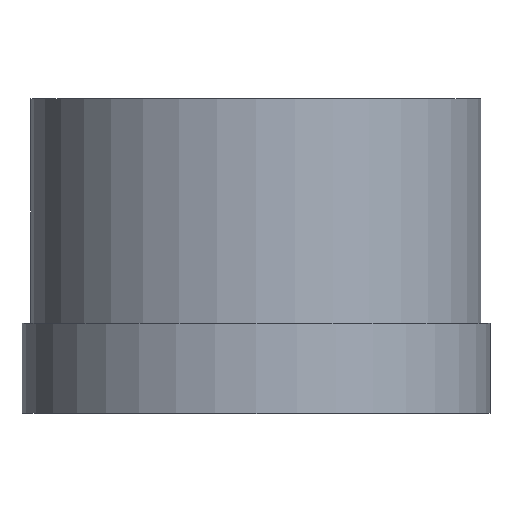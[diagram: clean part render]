
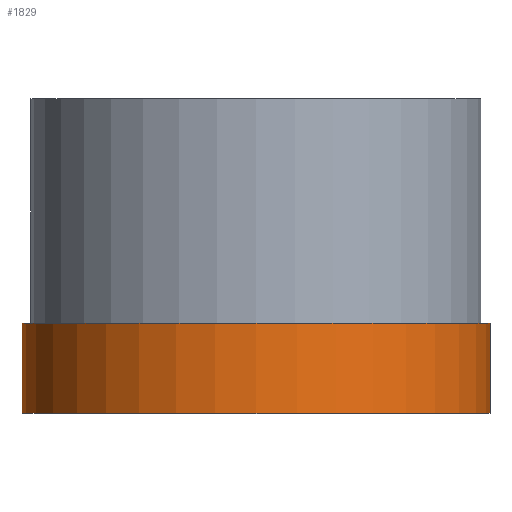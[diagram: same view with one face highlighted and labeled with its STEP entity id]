
A CAD part, front view. The second image highlights one B-rep face of the part: STEP entity #1829.
In plain terms, the highlighted cylindrical face has radius 13 mm (diameter 26 mm), a full revolution.
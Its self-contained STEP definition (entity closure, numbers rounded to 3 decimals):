
#341=FACE_OUTER_BOUND('',#453,.T.);
#453=EDGE_LOOP('',(#1681,#1682,#1683,#1684,#1685,#1686));
#483=CIRCLE('',#1907,13.);
#484=CIRCLE('',#1908,13.);
#485=CIRCLE('',#1910,13.);
#486=CIRCLE('',#1911,13.);
#601=LINE('',#4714,#708);
#708=VECTOR('',#2147,13.);
#883=VERTEX_POINT('',#4705);
#884=VERTEX_POINT('',#4706);
#885=VERTEX_POINT('',#4710);
#886=VERTEX_POINT('',#4711);
#1152=EDGE_CURVE('',#883,#884,#483,.T.);
#1153=EDGE_CURVE('',#884,#883,#484,.T.);
#1154=EDGE_CURVE('',#885,#886,#485,.T.);
#1155=EDGE_CURVE('',#886,#885,#486,.T.);
#1156=EDGE_CURVE('',#886,#884,#601,.T.);
#1681=ORIENTED_EDGE('',*,*,#1154,.F.);
#1682=ORIENTED_EDGE('',*,*,#1155,.F.);
#1683=ORIENTED_EDGE('',*,*,#1156,.T.);
#1684=ORIENTED_EDGE('',*,*,#1153,.T.);
#1685=ORIENTED_EDGE('',*,*,#1152,.T.);
#1686=ORIENTED_EDGE('',*,*,#1156,.F.);
#1725=CYLINDRICAL_SURFACE('',#1909,13.);
#1829=ADVANCED_FACE('',(#341),#1725,.T.);
#1907=AXIS2_PLACEMENT_3D('',#4707,#2137,#2138);
#1908=AXIS2_PLACEMENT_3D('',#4708,#2139,#2140);
#1909=AXIS2_PLACEMENT_3D('',#4709,#2141,#2142);
#1910=AXIS2_PLACEMENT_3D('',#4712,#2143,#2144);
#1911=AXIS2_PLACEMENT_3D('',#4713,#2145,#2146);
#2137=DIRECTION('center_axis',(0.,0.,-1.));
#2138=DIRECTION('ref_axis',(1.,0.,0.));
#2139=DIRECTION('center_axis',(0.,0.,-1.));
#2140=DIRECTION('ref_axis',(1.,0.,0.));
#2141=DIRECTION('center_axis',(0.,0.,-1.));
#2142=DIRECTION('ref_axis',(0.,1.,0.));
#2143=DIRECTION('center_axis',(0.,0.,-1.));
#2144=DIRECTION('ref_axis',(1.,0.,0.));
#2145=DIRECTION('center_axis',(0.,0.,-1.));
#2146=DIRECTION('ref_axis',(1.,0.,0.));
#2147=DIRECTION('',(0.,0.,1.));
#4705=CARTESIAN_POINT('',(0.,13.,5.));
#4706=CARTESIAN_POINT('',(0.,-13.,5.));
#4707=CARTESIAN_POINT('Origin',(0.,0.,5.));
#4708=CARTESIAN_POINT('Origin',(0.,0.,5.));
#4709=CARTESIAN_POINT('Origin',(0.,0.,2.5));
#4710=CARTESIAN_POINT('',(0.,13.,0.));
#4711=CARTESIAN_POINT('',(0.,-13.,0.));
#4712=CARTESIAN_POINT('Origin',(0.,0.,0.));
#4713=CARTESIAN_POINT('Origin',(0.,0.,0.));
#4714=CARTESIAN_POINT('',(0.,-13.,2.5));
